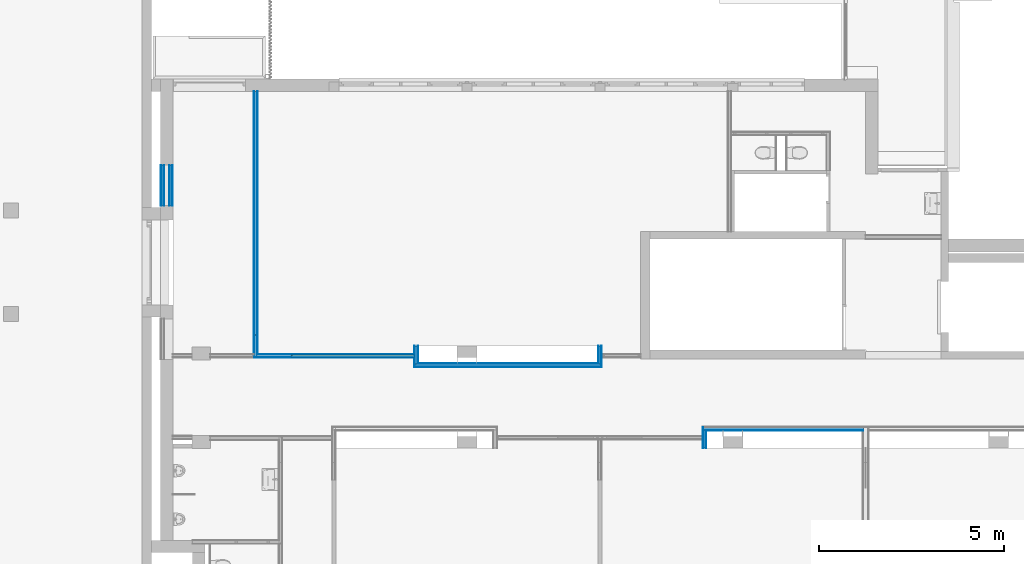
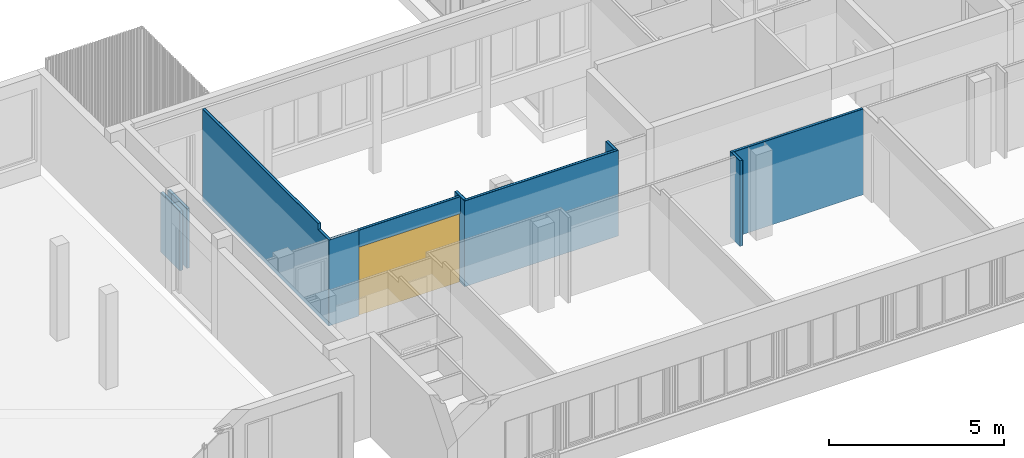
# One storey, part 58 of 99: 28 building element parts, 1 window, 1 opening, 10 elements without a shape of their own.
"""IFC2X3 building model written with IfcOpenShell, lengths in millimetres."""

from ifc_helpers import new_model, entity, si_unit, converted_unit, derived_unit, money_unit, direction, frame, origin_with_axes, place, context, subcontext, project, spatial, open_shell, faceted_brep, surface_model, material, type_object, element, fill, aggregate, save


model = new_model("IFC2X3")

# Units and contexts
model_context = context("Model", 3, precision=0.01, world=origin_with_axes(), true_north=direction((0.0, 1.0)))
body_context = subcontext(model_context, "Body", "Model", "MODEL_VIEW")
ifc_project = project(units=[si_unit("LENGTHUNIT", "METRE", prefix="MILLI"), si_unit("AREAUNIT", "SQUARE_METRE"), si_unit("VOLUMEUNIT", "CUBIC_METRE"), converted_unit("PLANEANGLEUNIT", "DEGREE", entity("IfcPlaneAngleMeasure", 0.0174532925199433), si_unit("PLANEANGLEUNIT", "RADIAN"), dimensions=[0, 0, 0, 0, 0, 0, 0]), money_unit("EUR"), converted_unit("TIMEUNIT", "Year", entity("IfcTimeMeasure", 31557600.0), si_unit("TIMEUNIT", "SECOND"), dimensions=[0, 0, 1, 0, 0, 0, 0]), si_unit("MASSUNIT", "GRAM", prefix="KILO"), si_unit("THERMODYNAMICTEMPERATUREUNIT", "DEGREE_CELSIUS"), si_unit("LUMINOUSINTENSITYUNIT", "LUMEN"), si_unit("ENERGYUNIT", "JOULE", prefix="MEGA"), derived_unit("THERMALCONDUCTANCEUNIT", [(si_unit("POWERUNIT", "WATT"), 1), (si_unit("LENGTHUNIT", "METRE"), -1), (si_unit("THERMODYNAMICTEMPERATUREUNIT", "KELVIN"), -1)]), derived_unit("SPECIFICHEATCAPACITYUNIT", [(si_unit("ENERGYUNIT", "JOULE"), 1), (si_unit("MASSUNIT", "GRAM", prefix="KILO"), -1), (si_unit("THERMODYNAMICTEMPERATUREUNIT", "KELVIN"), -1)]), derived_unit("MASSDENSITYUNIT", [(si_unit("MASSUNIT", "GRAM", prefix="KILO"), 1), (si_unit("VOLUMEUNIT", "CUBIC_METRE"), -1)])], contexts=[model_context])

# Site, building, storey
site_placement = place(None, origin_with_axes())
site = spatial("IfcSite", under=ifc_project, at=site_placement, Name="Site", CompositionType="ELEMENT")
building_placement = place(site_placement, origin_with_axes())
building = spatial("IfcBuilding", under=site, at=building_placement, Name="Naam gebouw", CompositionType="ELEMENT")
storey_placement = place(building_placement, frame((0.0, 0.0, 7650.0), z_axis=(0.0, 0.0, 1.0), x_axis=(1.0, 0.0, 0.0)))
storey = spatial("IfcBuildingStorey", under=building, at=storey_placement, Name="2e verdieping N", CompositionType="ELEMENT", Elevation=7650.0)

# Window
window_style = type_object("IfcWindowStyle", Name="R1 26", ConstructionType="NOTDEFINED", OperationType="SINGLE_PANEL", ParameterTakesPrecedence=False, Sizeable=False)
wall_10_placement = place(storey_placement, frame((2429.986500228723, 12825.85635739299, 0.0), z_axis=(0.0, 0.0, 1.0), x_axis=(1.0, 0.0, 0.0)))
opening_placement = place(wall_10_placement, frame((1672.256490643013, 0.0, 0.0), z_axis=(0.0, 0.0, 1.0), x_axis=(1.0, 0.0, 0.0)))
window_placement = place(opening_placement, frame((-1672.256490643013, 0.0, 0.0), z_axis=(0.0, 0.0, 1.0), x_axis=(1.0, 0.0, 0.0)))
window = element("IfcWindow", 1, at=window_placement, inside=storey, type_object=window_style, Name="_Merk-002", ObjectType="WINDOW", OverallHeight=2400.0, OverallWidth=3344.51, context=body_context, shape_type="SurfaceModel", body=[
    faceted_brep([(30.00000000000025, -9.999999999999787, 2369.999999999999), (30.00000000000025, 9.999999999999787, 2369.999999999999), (0.0, 9.999999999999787, 2369.999999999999), (0.0, -9.999999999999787, 2369.999999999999), (30.00000000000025, -9.999999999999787, 30.00000000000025), (30.00000000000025, 9.999999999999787, 30.00000000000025), (0.0, 9.999999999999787, 30.00000000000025), (0.0, -9.999999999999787, 30.00000000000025)], [[[0, 1, 2, 3]], [[4, 5, 1, 0]], [[1, 5, 6, 2]], [[3, 2, 6, 7]], [[0, 3, 7, 4]], [[7, 6, 5, 4]]]),
    faceted_brep([(3314.512981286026, -9.999999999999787, 30.00000000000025), (3314.512981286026, 9.999999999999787, 30.00000000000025), (3344.512981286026, 9.999999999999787, 30.00000000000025), (3344.512981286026, -9.999999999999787, 30.00000000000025), (3314.512981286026, -9.999999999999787, 2369.999999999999), (3314.512981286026, 9.999999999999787, 2369.999999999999), (3344.512981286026, 9.999999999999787, 2369.999999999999), (3344.512981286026, -9.999999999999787, 2369.999999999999)], [[[0, 1, 2, 3]], [[4, 5, 1, 0]], [[1, 5, 6, 2]], [[3, 2, 6, 7]], [[0, 3, 7, 4]], [[7, 6, 5, 4]]]),
    faceted_brep([(30.00000000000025, -9.999999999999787, 30.00000000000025), (30.00000000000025, 9.999999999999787, 30.00000000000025), (0.0, 9.999999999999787, 30.00000000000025), (0.0, -9.999999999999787, 30.00000000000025), (3314.512981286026, -9.999999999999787, 30.00000000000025), (3314.512981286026, 9.999999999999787, 30.00000000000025), (3344.512981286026, 9.999999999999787, 30.00000000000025), (3344.512981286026, 9.999999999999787, 0.0), (0.0, 9.999999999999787, 0.0), (0.0, -9.999999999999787, 0.0), (3344.512981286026, -9.999999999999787, 0.0), (3344.512981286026, -9.999999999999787, 30.00000000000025)], [[[0, 1, 2, 3]], [[4, 5, 1, 0]], [[1, 5, 6, 7, 8, 2]], [[3, 2, 8, 9]], [[0, 3, 9, 10, 11, 4]], [[11, 6, 5, 4]], [[10, 7, 6, 11]], [[9, 8, 7, 10]]]),
    faceted_brep([(3314.512981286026, -9.999999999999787, 2369.999999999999), (3314.512981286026, 9.999999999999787, 2369.999999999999), (3344.512981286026, 9.999999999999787, 2369.999999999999), (3344.512981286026, -9.999999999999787, 2369.999999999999), (30.00000000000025, -9.999999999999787, 2369.999999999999), (30.00000000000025, 9.999999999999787, 2369.999999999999), (0.0, 9.999999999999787, 2369.999999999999), (0.0, 9.999999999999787, 2400.0), (3344.512981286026, 9.999999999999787, 2400.0), (3344.512981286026, -9.999999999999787, 2400.0), (0.0, -9.999999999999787, 2400.0), (0.0, -9.999999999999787, 2369.999999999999)], [[[0, 1, 2, 3]], [[4, 5, 1, 0]], [[1, 5, 6, 7, 8, 2]], [[3, 2, 8, 9]], [[0, 3, 9, 10, 11, 4]], [[11, 6, 5, 4]], [[10, 7, 6, 11]], [[9, 8, 7, 10]]]),
    surface_model("IfcShellBasedSurfaceModel", [(30.00000000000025, -9.999999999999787, 30.00000000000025), (3314.512981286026, -9.999999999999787, 30.00000000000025), (3314.512981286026, -9.999999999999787, 2369.999999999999), (30.00000000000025, -9.999999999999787, 2369.999999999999)], [open_shell([[[0, 1, 2, 3]]])]),
    surface_model("IfcShellBasedSurfaceModel", [(30.00000000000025, 0.0, 30.00000000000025), (30.00000000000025, 0.0, 2369.999999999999), (3314.512981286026, 0.0, 2369.999999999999), (3314.512981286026, 0.0, 30.00000000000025)], [open_shell([[[0, 1, 2, 3]]])]),
])

# Wall, building element parts
wall_type = type_object("IfcWallType", Name="Metalstud iso 100 100", PredefinedType="NOTDEFINED")
wall_1_placement = place(storey_placement, frame((-1100.076105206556, 16900.57502437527, 309.9999999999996), z_axis=(0.0, 0.0, 1.0), x_axis=(0.0, 1.0, 0.0)))
wall_1 = element("IfcWall", 2, at=wall_1_placement, inside=storey, type_object=wall_type, Name="_Wand-x")
ifc_material_1 = material(Name="Gipsplaat")
building_element_part_1_placement = place(wall_1_placement, origin_with_axes())
building_element_part_1 = element("IfcBuildingElementPart", 3, at=building_element_part_1_placement, material=ifc_material_1, Name="Gipsplaat", context=body_context, shape_type="Brep", body=[
    faceted_brep([(1094.999999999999, 0.0, 0.0), (1094.999999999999, -12.49999999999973, 0.0), (0.0, -12.49999999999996, 0.0), (0.0, 0.0, 0.0), (1094.999999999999, 0.0, 2080.000000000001), (1094.999999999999, -12.49999999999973, 2080.000000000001), (0.0, -12.49999999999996, 2080.000000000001), (0.0, 0.0, 2080.000000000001)], [[[0, 1, 2, 3]], [[0, 4, 5, 1]], [[1, 5, 6, 2]], [[3, 2, 6, 7]], [[4, 0, 3, 7]], [[5, 4, 7, 6]]]),
])
building_element_part_2_placement = place(wall_1_placement, origin_with_axes())
building_element_part_2 = element("IfcBuildingElementPart", 4, at=building_element_part_2_placement, material=ifc_material_1, Name="Gipsplaat", context=body_context, shape_type="Brep", body=[
    faceted_brep([(1094.999999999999, -87.49999999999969, 0.0), (1094.999999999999, -99.99999999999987, 0.0), (0.0, -100.0000000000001, 0.0), (0.0, -87.49999999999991, 0.0), (1094.999999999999, -87.49999999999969, 2080.000000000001), (1094.999999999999, -99.99999999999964, 2080.000000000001), (0.0, -99.99999999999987, 2080.000000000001), (0.0, -87.49999999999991, 2080.000000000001)], [[[0, 1, 2, 3]], [[0, 4, 5, 1]], [[1, 5, 6, 2]], [[3, 2, 6, 7]], [[4, 0, 3, 7]], [[5, 4, 7, 6]]]),
])
ifc_material_2 = material(Name="Isolatie - Steenwol LSW")
building_element_part_3_placement = place(wall_1_placement, origin_with_axes())
building_element_part_3 = element("IfcBuildingElementPart", 5, at=building_element_part_3_placement, material=ifc_material_2, Name="Isolatie - Steenwol LSW", context=body_context, shape_type="Brep", body=[
    faceted_brep([(1094.999999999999, -12.49999999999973, 0.0), (1094.999999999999, -87.49999999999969, 0.0), (0.0, -87.49999999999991, 0.0), (0.0, -12.49999999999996, 0.0), (1094.999999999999, -12.49999999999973, 2080.000000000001), (1094.999999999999, -87.49999999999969, 2080.000000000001), (0.0, -87.49999999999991, 2080.000000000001), (0.0, -12.49999999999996, 2080.000000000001)], [[[0, 1, 2, 3]], [[0, 4, 5, 1]], [[1, 5, 6, 2]], [[3, 2, 6, 7]], [[4, 0, 3, 7]], [[5, 4, 7, 6]]]),
])
aggregate(wall_1, [building_element_part_1, building_element_part_2, building_element_part_3])

wall_2_placement = place(storey_placement, frame((-770.0761052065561, 16900.57502437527, 309.9999999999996), z_axis=(0.0, 0.0, 1.0), x_axis=(0.0, 1.0, 0.0)))
wall_2 = element("IfcWall", 6, at=wall_2_placement, inside=storey, type_object=wall_type, Name="_Wand-x")
building_element_part_4_placement = place(wall_2_placement, origin_with_axes())
building_element_part_4 = element("IfcBuildingElementPart", 7, at=building_element_part_4_placement, material=ifc_material_2, Name="Isolatie - Steenwol LSW", context=body_context, shape_type="Brep", body=[
    faceted_brep([(1094.999999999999, 12.5000000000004, 2080.000000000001), (1094.999999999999, 87.50000000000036, 2080.000000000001), (0.0, 87.50000000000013, 2080.000000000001), (0.0, 12.50000000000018, 2080.000000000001), (1094.999999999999, 12.50000000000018, 0.0), (1094.999999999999, 87.50000000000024, 0.0), (0.0, 87.50000000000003, 0.0), (0.0, 12.49999999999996, 0.0)], [[[0, 1, 2, 3]], [[0, 4, 5, 1]], [[1, 5, 6, 2]], [[3, 2, 6, 7]], [[4, 0, 3, 7]], [[5, 4, 7, 6]]]),
])
building_element_part_5_placement = place(wall_2_placement, origin_with_axes())
building_element_part_5 = element("IfcBuildingElementPart", 8, at=building_element_part_5_placement, material=ifc_material_1, Name="Gipsplaat", context=body_context, shape_type="Brep", body=[
    faceted_brep([(1094.999999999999, 87.50000000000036, 2080.000000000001), (1094.999999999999, 100.0000000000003, 2080.000000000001), (0.0, 100.0000000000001, 2080.000000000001), (0.0, 87.50000000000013, 2080.000000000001), (1094.999999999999, 87.50000000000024, 0.0), (1094.999999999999, 100.0000000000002, 0.0), (0.0, 99.99999999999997, 0.0), (0.0, 87.50000000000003, 0.0)], [[[0, 1, 2, 3]], [[0, 4, 5, 1]], [[1, 5, 6, 2]], [[3, 2, 6, 7]], [[4, 0, 3, 7]], [[5, 4, 7, 6]]]),
])
building_element_part_6_placement = place(wall_2_placement, origin_with_axes())
building_element_part_6 = element("IfcBuildingElementPart", 9, at=building_element_part_6_placement, material=ifc_material_1, Name="Gipsplaat", context=body_context, shape_type="Brep", body=[
    faceted_brep([(1094.999999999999, 0.0, 2080.000000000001), (1094.999999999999, 12.5000000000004, 2080.000000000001), (0.0, 12.50000000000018, 2080.000000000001), (0.0, 0.0, 2080.000000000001), (1094.999999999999, 0.0, 0.0), (1094.999999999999, 12.50000000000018, 0.0), (0.0, 12.49999999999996, 0.0), (0.0, 0.0, 0.0)], [[[0, 1, 2, 3]], [[0, 4, 5, 1]], [[1, 5, 6, 2]], [[3, 2, 6, 7]], [[4, 0, 3, 7]], [[5, 4, 7, 6]]]),
])
aggregate(wall_2, [building_element_part_4, building_element_part_5, building_element_part_6])

wall_3_placement = place(storey_placement, frame((1529.923894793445, 19995.82729346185, 0.0), z_axis=(0.0, 0.0, 1.0), x_axis=(5.168867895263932e-06, -0.9999999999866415, 0.0)))
wall_3 = element("IfcWall", 10, at=wall_3_placement, inside=storey, type_object=wall_type, Name="_Wand-x")
building_element_part_7_placement = place(wall_3_placement, origin_with_axes())
building_element_part_7 = element("IfcBuildingElementPart", 11, at=building_element_part_7_placement, material=ifc_material_1, Name="Gipsplaat", context=body_context, shape_type="Brep", body=[
    faceted_brep([(6599.914351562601, -99.99999999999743, 3199.999999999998), (6599.914416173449, -87.49999999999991, 3199.999999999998), (0.0, -87.49999999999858, 3199.999999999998), (0.0, -99.99999999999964, 3199.999999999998), (6599.914416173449, -87.50000000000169, 2989.999999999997), (6599.914351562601, -100.000000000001, 2989.999999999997), (7219.975588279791, -87.49999999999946, 2989.999999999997), (7219.975588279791, -87.49999999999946, 0.0), (0.0, -87.50000000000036, 0.0), (0.0, -100.0000000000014, 0.0), (7219.975588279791, -100.0000000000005, 0.0), (7219.975588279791, -100.0000000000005, 2989.999999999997)], [[[0, 1, 2, 3]], [[4, 1, 0, 5]], [[4, 6, 7, 8, 2, 1]], [[9, 3, 2, 8]], [[5, 0, 3, 9, 10, 11]], [[6, 4, 5, 11]], [[6, 11, 10, 7]], [[10, 9, 8, 7]]]),
])
building_element_part_8_placement = place(wall_3_placement, origin_with_axes())
building_element_part_8 = element("IfcBuildingElementPart", 12, at=building_element_part_8_placement, material=ifc_material_1, Name="Gipsplaat", context=body_context, shape_type="Brep", body=[
    faceted_brep([(6599.914803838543, -12.49999999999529, 3199.999999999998), (6599.91486844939, 0.0, 3199.999999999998), (0.0, 0.0, 3199.999999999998), (0.0, -12.49999999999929, 3199.999999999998), (6599.91486844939, 0.0, 2989.999999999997), (6599.914803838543, -12.49999999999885, 2989.999999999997), (7132.475588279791, 0.0, 2989.999999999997), (7132.475588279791, 0.0, 0.0), (0.0, 0.0, 0.0), (0.0, -12.49999999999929, 0.0), (7132.475588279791, -12.49999999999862, 0.0), (7132.475588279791, -12.49999999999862, 2989.999999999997)], [[[0, 1, 2, 3]], [[4, 1, 0, 5]], [[4, 6, 7, 8, 2, 1]], [[9, 3, 2, 8]], [[5, 0, 3, 9, 10, 11]], [[6, 4, 5, 11]], [[6, 11, 10, 7]], [[10, 9, 8, 7]]]),
])
building_element_part_9_placement = place(wall_3_placement, origin_with_axes())
building_element_part_9 = element("IfcBuildingElementPart", 13, at=building_element_part_9_placement, material=ifc_material_2, Name="Isolatie - Steenwol LSW", context=body_context, shape_type="Brep", body=[
    faceted_brep([(6599.914416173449, -87.49999999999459, 3199.999999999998), (6599.914803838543, -12.49999999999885, 3199.999999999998), (0.0, -12.49999999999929, 3199.999999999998), (0.0, -87.49999999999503, 3199.999999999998), (6599.914803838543, -12.49999999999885, 2989.999999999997), (6599.914416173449, -87.49999999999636, 2989.999999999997), (7207.475588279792, -12.49999999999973, 2989.999999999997), (7207.475588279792, -12.49999999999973, 0.0), (0.0, -12.49999999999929, 0.0), (0.0, -87.50000000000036, 0.0), (7207.475588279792, -87.5000000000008, 0.0), (7207.475588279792, -87.49999999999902, 2989.999999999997)], [[[0, 1, 2, 3]], [[4, 1, 0, 5]], [[4, 6, 7, 8, 2, 1]], [[9, 3, 2, 8]], [[5, 0, 3, 9, 10, 11]], [[6, 4, 5, 11]], [[6, 11, 10, 7]], [[10, 9, 8, 7]]]),
])
aggregate(wall_3, [building_element_part_7, building_element_part_8, building_element_part_9])

wall_4_placement = place(storey_placement, frame((18000.0, 10805.91242510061, 0.0), z_axis=(0.0, 0.0, 1.0), x_axis=(-1.0, 0.0, 0.0)))
wall_4 = element("IfcWall", 14, at=wall_4_placement, inside=storey, type_object=wall_type, Name="_Wand-x")
building_element_part_10_placement = place(wall_4_placement, origin_with_axes())
building_element_part_10 = element("IfcBuildingElementPart", 15, at=building_element_part_10_placement, material=ifc_material_1, Name="Gipsplaat", context=body_context, shape_type="Brep", body=[
    faceted_brep([(4327.500000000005, -12.49999999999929, 2989.999999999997), (62.5, -12.49999999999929, 2989.999999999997), (62.5, -12.49999999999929, 0.0), (4327.500000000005, -12.50000000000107, 0.0), (62.5, 0.0, 2989.999999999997), (4327.500000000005, 0.0, 2989.999999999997), (62.5, 0.0, 0.0), (4327.500000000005, 0.0, 0.0)], [[[0, 1, 2, 3]], [[4, 1, 0, 5]], [[1, 4, 6, 2]], [[3, 2, 6, 7]], [[5, 0, 3, 7]], [[4, 5, 7, 6]]]),
])
building_element_part_11_placement = place(wall_4_placement, origin_with_axes())
building_element_part_11 = element("IfcBuildingElementPart", 16, at=building_element_part_11_placement, material=ifc_material_2, Name="Isolatie - Steenwol LSW", context=body_context, shape_type="Brep", body=[
    faceted_brep([(4402.500000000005, -87.50000000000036, 2989.999999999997), (62.5, -87.50000000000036, 2989.999999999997), (62.5, -87.50000000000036, 0.0), (4402.500000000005, -87.50000000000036, 0.0), (62.5, -12.49999999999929, 2989.999999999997), (4402.500000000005, -12.49999999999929, 2989.999999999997), (62.5, -12.50000000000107, 0.0), (4402.500000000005, -12.50000000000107, 0.0)], [[[0, 1, 2, 3]], [[4, 1, 0, 5]], [[1, 4, 6, 2]], [[3, 2, 6, 7]], [[5, 0, 3, 7]], [[4, 5, 7, 6]]]),
])
aggregate(wall_4, [building_element_part_10, building_element_part_11])

wall_5_placement = place(storey_placement, frame((13684.99999999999, 10330.91242510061, 0.0), z_axis=(0.0, 0.0, 1.0), x_axis=(0.0, 1.0, 0.0)))
wall_5 = element("IfcWall", 17, at=wall_5_placement, inside=storey, type_object=wall_type, Name="_Wand-x")
building_element_part_12_placement = place(wall_5_placement, origin_with_axes())
building_element_part_12 = element("IfcBuildingElementPart", 18, at=building_element_part_12_placement, material=ifc_material_1, Name="Gipsplaat", context=body_context, shape_type="Brep", body=[
    faceted_brep([(562.4999999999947, 99.99999999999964, 2989.999999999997), (562.4999999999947, 87.50000000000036, 2989.999999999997), (562.4999999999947, 87.50000000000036, 0.0), (562.4999999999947, 99.99999999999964, 0.0), (0.0, 87.50000000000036, 2989.999999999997), (0.0, 99.99999999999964, 2989.999999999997), (0.0, 87.50000000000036, 0.0), (0.0, 99.99999999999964, 0.0)], [[[0, 1, 2, 3]], [[4, 1, 0, 5]], [[1, 4, 6, 2]], [[3, 2, 6, 7]], [[5, 0, 3, 7]], [[4, 5, 7, 6]]]),
])
building_element_part_13_placement = place(wall_5_placement, origin_with_axes())
building_element_part_13 = element("IfcBuildingElementPart", 19, at=building_element_part_13_placement, material=ifc_material_2, Name="Isolatie - Steenwol LSW", context=body_context, shape_type="Brep", body=[
    faceted_brep([(487.4999999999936, 87.50000000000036, 2989.999999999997), (487.4999999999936, 12.50000000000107, 2989.999999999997), (487.4999999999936, 12.49999999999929, 0.0), (487.4999999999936, 87.50000000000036, 0.0), (0.0, 12.50000000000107, 2989.999999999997), (0.0, 87.50000000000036, 2989.999999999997), (0.0, 12.49999999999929, 0.0), (0.0, 87.50000000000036, 0.0)], [[[0, 1, 2, 3]], [[4, 1, 0, 5]], [[1, 4, 6, 2]], [[3, 2, 6, 7]], [[5, 0, 3, 7]], [[4, 5, 7, 6]]]),
])
building_element_part_14_placement = place(wall_5_placement, origin_with_axes())
building_element_part_14 = element("IfcBuildingElementPart", 20, at=building_element_part_14_placement, material=ifc_material_1, Name="Gipsplaat", context=body_context, shape_type="Brep", body=[
    faceted_brep([(474.9999999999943, 12.50000000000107, 2989.999999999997), (474.9999999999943, 0.0, 2989.999999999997), (474.9999999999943, 0.0, 0.0), (474.9999999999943, 12.49999999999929, 0.0), (0.0, 0.0, 2989.999999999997), (0.0, 12.50000000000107, 2989.999999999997), (0.0, 0.0, 0.0), (0.0, 12.49999999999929, 0.0)], [[[0, 1, 2, 3]], [[4, 1, 0, 5]], [[1, 4, 6, 2]], [[3, 2, 6, 7]], [[5, 0, 3, 7]], [[4, 5, 7, 6]]]),
])
aggregate(wall_5, [building_element_part_12, building_element_part_13, building_element_part_14])

wall_6_placement = place(storey_placement, frame((10750.0, 13100.85635739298, 0.0), z_axis=(0.0, 0.0, 1.0), x_axis=(0.0, -1.0, 0.0)))
wall_6 = element("IfcWall", 21, at=wall_6_placement, inside=storey, type_object=wall_type, Name="_Wand-x")
building_element_part_15_placement = place(wall_6_placement, origin_with_axes())
building_element_part_15 = element("IfcBuildingElementPart", 22, at=building_element_part_15_placement, material=ifc_material_1, Name="Gipsplaat", context=body_context, shape_type="Brep", body=[
    faceted_brep([(0.0, 87.49999999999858, 2989.999999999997), (0.0, 100.0000000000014, 2989.999999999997), (0.0, 100.0000000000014, 0.0), (0.0, 87.49999999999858, 0.0), (562.4999999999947, 100.0000000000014, 2989.999999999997), (562.4999999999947, 87.49999999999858, 2989.999999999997), (562.4999999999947, 100.0000000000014, 0.0), (562.4999999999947, 87.49999999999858, 0.0)], [[[0, 1, 2, 3]], [[4, 1, 0, 5]], [[1, 4, 6, 2]], [[6, 7, 3, 2]], [[5, 0, 3, 7]], [[4, 5, 7, 6]]]),
])
building_element_part_16_placement = place(wall_6_placement, origin_with_axes())
building_element_part_16 = element("IfcBuildingElementPart", 23, at=building_element_part_16_placement, material=ifc_material_2, Name="Isolatie - Steenwol LSW", context=body_context, shape_type="Brep", body=[
    faceted_brep([(0.0, 12.50000000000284, 2989.999999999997), (0.0, 87.49999999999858, 2989.999999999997), (0.0, 87.49999999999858, 0.0), (0.0, 12.49999999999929, 0.0), (487.4999999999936, 87.49999999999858, 2989.999999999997), (487.4999999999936, 12.49999999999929, 2989.999999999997), (487.4999999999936, 87.49999999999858, 0.0), (487.4999999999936, 12.49999999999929, 0.0)], [[[0, 1, 2, 3]], [[4, 1, 0, 5]], [[1, 4, 6, 2]], [[6, 7, 3, 2]], [[5, 0, 3, 7]], [[4, 5, 7, 6]]]),
])
building_element_part_17_placement = place(wall_6_placement, origin_with_axes())
building_element_part_17 = element("IfcBuildingElementPart", 24, at=building_element_part_17_placement, material=ifc_material_1, Name="Gipsplaat", context=body_context, shape_type="Brep", body=[
    faceted_brep([(0.0, 0.0, 2989.999999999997), (0.0, 12.50000000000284, 2989.999999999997), (0.0, 12.49999999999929, 0.0), (0.0, 0.0, 0.0), (474.9999999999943, 12.49999999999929, 2989.999999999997), (474.9999999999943, 0.0, 2989.999999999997), (474.9999999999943, 12.49999999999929, 0.0), (474.9999999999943, 0.0, 0.0)], [[[0, 1, 2, 3]], [[4, 1, 0, 5]], [[1, 4, 6, 2]], [[6, 7, 3, 2]], [[5, 0, 3, 7]], [[4, 5, 7, 6]]]),
])
aggregate(wall_6, [building_element_part_15, building_element_part_16, building_element_part_17])

wall_7_placement = place(storey_placement, frame((1529.960858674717, 12875.851705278, 0.0), z_axis=(0.0, 0.0, 1.0), x_axis=(0.9999999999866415, 5.168867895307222e-06, 0.0)))
wall_7 = element("IfcWall", 25, at=wall_7_placement, inside=storey, type_object=wall_type, Name="_Wand-x")
building_element_part_18_placement = place(wall_7_placement, origin_with_axes())
building_element_part_18 = element("IfcBuildingElementPart", 26, at=building_element_part_18_placement, material=ifc_material_1, Name="Gipsplaat", context=body_context, shape_type="Brep", body=[
    faceted_brep([(-0.0001616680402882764, 8.36664071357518e-10, 2989.999999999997), (900.0256415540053, -0.004652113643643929, 2989.999999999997), (900.0256415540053, -0.004652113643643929, 0.0), (-0.0001616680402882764, 8.36664071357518e-10, 0.0), (900.0255769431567, -12.50465211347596, 2989.999999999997), (-0.0001616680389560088, -12.4999999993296, 2989.999999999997), (900.0255769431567, -12.50465211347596, 0.0), (-0.0001616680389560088, -12.4999999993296, 0.0)], [[[0, 1, 2, 3]], [[4, 1, 0, 5]], [[1, 4, 6, 2]], [[3, 2, 6, 7]], [[5, 0, 3, 7]], [[4, 5, 7, 6]]]),
])
building_element_part_19_placement = place(wall_7_placement, origin_with_axes())
building_element_part_19 = element("IfcBuildingElementPart", 27, at=building_element_part_19_placement, material=ifc_material_1, Name="Gipsplaat", context=body_context, shape_type="Brep", body=[
    faceted_brep([(-87.50016166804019, -87.49954772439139, 2989.999999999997), (900.0251892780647, -87.50465211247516, 2989.999999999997), (900.0251892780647, -87.50465211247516, 0.0), (-87.50016166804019, -87.49954772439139, 0.0), (900.025124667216, -100.0046521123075, 2989.999999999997), (-87.50016166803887, -99.99954772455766, 2989.999999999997), (900.025124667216, -100.0046521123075, 0.0), (-87.50016166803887, -99.99954772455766, 0.0)], [[[0, 1, 2, 3]], [[4, 1, 0, 5]], [[1, 4, 6, 2]], [[3, 2, 6, 7]], [[5, 0, 3, 7]], [[4, 5, 7, 6]]]),
])
aggregate(wall_7, [building_element_part_18, building_element_part_19])

wall_8_placement = place(storey_placement, frame((5874.499481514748, 13100.85635739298, 0.0), z_axis=(0.0, 0.0, 1.0), x_axis=(0.0, -1.0, 0.0)))
wall_8 = element("IfcWall", 28, at=wall_8_placement, inside=storey, type_object=wall_type, Name="_Wand-x")
building_element_part_20_placement = place(wall_8_placement, origin_with_axes())
building_element_part_20 = element("IfcBuildingElementPart", 29, at=building_element_part_20_placement, material=ifc_material_1, Name="Gipsplaat", context=body_context, shape_type="Brep", body=[
    faceted_brep([(3.255351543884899e-08, -12.50000000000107, 2049.999999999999), (6.645883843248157e-08, 0.0, 2049.999999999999), (0.0, 0.0, 0.0), (0.0, -12.50000000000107, 0.0), (430.000000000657, 0.0, 2049.999999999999), (430.000000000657, -12.50000000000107, 2049.999999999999), (450.0000000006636, 0.0, 2049.999999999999), (450.0000000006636, 0.0, 2069.999999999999), (6.645883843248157e-08, 0.0, 2069.999999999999), (0.0, 0.0, 2989.999999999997), (474.9999999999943, 0.0, 2989.999999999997), (474.9999999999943, 0.0, 0.0), (430.000000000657, 0.0, 49.99999999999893), (450.0000000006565, 0.0, 49.99999999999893), (474.9999999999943, -12.50000000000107, 0.0), (450.0000000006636, -12.50000000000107, 2069.999999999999), (450.0000000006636, -12.50000000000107, 2049.999999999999), (450.0000000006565, -12.50000000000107, 49.99999999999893), (430.000000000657, -12.50000000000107, 49.99999999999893), (474.9999999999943, -12.50000000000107, 2989.999999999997), (0.0, -12.50000000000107, 2989.999999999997), (3.255351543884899e-08, -12.50000000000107, 2069.999999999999)], [[[0, 1, 2, 3]], [[4, 1, 0, 5]], [[6, 7, 8, 9, 10, 11, 2, 1, 4, 12, 13]], [[2, 11, 14, 3]], [[15, 16, 17, 18, 5, 0, 3, 14, 19, 20, 21]], [[4, 5, 18, 12]], [[7, 6, 16, 15]], [[21, 8, 7, 15]], [[8, 21, 20, 9]], [[10, 9, 20, 19]], [[10, 19, 14, 11]], [[17, 13, 12, 18]], [[16, 6, 13, 17]]]),
])
building_element_part_21_placement = place(wall_8_placement, origin_with_axes())
building_element_part_21 = element("IfcBuildingElementPart", 30, at=building_element_part_21_placement, material=ifc_material_2, Name="Isolatie - Steenwol LSW", context=body_context, shape_type="Brep", body=[
    faceted_brep([(450.0000000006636, -12.50000000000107, 2049.999999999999), (450.0000000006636, -12.50000000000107, 2069.999999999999), (3.255351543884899e-08, -12.50000000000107, 2069.999999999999), (0.0, -12.50000000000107, 2989.999999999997), (487.4999999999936, -12.50000000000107, 2989.999999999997), (487.4999999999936, -12.50000000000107, 0.0), (0.0, -12.50000000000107, 0.0), (3.255351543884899e-08, -12.50000000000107, 2049.999999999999), (430.000000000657, -12.50000000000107, 2049.999999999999), (430.000000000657, -12.50000000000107, 49.99999999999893), (450.0000000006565, -12.50000000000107, 49.99999999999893), (450.0000000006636, -24.49948151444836, 2049.999999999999), (450.0000000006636, -24.49948151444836, 2069.999999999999), (0.0, -24.49948151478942, 2069.999999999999), (0.0, -24.49948151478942, 2049.999999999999), (0.0, -87.50000000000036, 0.0), (0.0, -87.50000000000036, 2989.999999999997), (487.4999999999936, -87.50000000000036, 2989.999999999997), (487.4999999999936, -87.50000000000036, 0.0), (430.000000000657, -24.49948151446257, 2049.999999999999), (430.000000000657, -24.49948151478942, 49.99999999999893), (450.0000000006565, -24.49948151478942, 49.99999999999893)], [[[0, 1, 2, 3, 4, 5, 6, 7, 8, 9, 10]], [[1, 0, 11, 12]], [[13, 2, 1, 12]], [[14, 7, 6, 15, 16, 3, 2, 13]], [[4, 3, 16, 17]], [[4, 17, 18, 5]], [[6, 5, 18, 15]], [[8, 7, 14, 19]], [[8, 19, 20, 9]], [[21, 10, 9, 20]], [[11, 0, 10, 21]], [[14, 13, 12, 11, 19]], [[17, 16, 15, 18]], [[19, 11, 21, 20]]]),
])
building_element_part_22_placement = place(wall_8_placement, origin_with_axes())
building_element_part_22 = element("IfcBuildingElementPart", 31, at=building_element_part_22_placement, material=ifc_material_1, Name="Gipsplaat", context=body_context, shape_type="Brep", body=[
    faceted_brep([(0.0, -99.99999999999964, 2989.999999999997), (0.0, -87.50000000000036, 2989.999999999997), (0.0, -87.50000000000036, 0.0), (0.0, -99.99999999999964, 0.0), (562.4999999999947, -87.50000000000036, 2989.999999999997), (562.4999999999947, -99.99999999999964, 2989.999999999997), (562.4999999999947, -87.50000000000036, 0.0), (562.4999999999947, -99.99999999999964, 0.0)], [[[0, 1, 2, 3]], [[4, 1, 0, 5]], [[1, 4, 6, 2]], [[6, 7, 3, 2]], [[5, 0, 3, 7]], [[4, 5, 7, 6]]]),
])
aggregate(wall_8, [building_element_part_20, building_element_part_21, building_element_part_22])

wall_9_placement = place(storey_placement, frame((10750.0, 12625.85635739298, 0.0), z_axis=(0.0, 0.0, 1.0), x_axis=(-1.0, 0.0, 0.0)))
wall_9 = element("IfcWall", 32, at=wall_9_placement, inside=storey, type_object=wall_type, Name="_Wand-x")
building_element_part_23_placement = place(wall_9_placement, origin_with_axes())
building_element_part_23 = element("IfcBuildingElementPart", 33, at=building_element_part_23_placement, material=ifc_material_1, Name="Gipsplaat", context=body_context, shape_type="Brep", body=[
    faceted_brep([(4888.000518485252, 0.0, 2989.999999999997), (-12.49999999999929, 0.0, 2989.999999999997), (-12.49999999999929, 0.0, 0.0), (4888.000518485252, 0.0, 0.0), (-12.49999999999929, 12.50000000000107, 2989.999999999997), (4888.000518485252, 12.50000000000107, 2989.999999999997), (-12.49999999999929, 12.49999999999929, 0.0), (4888.000518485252, 12.50000000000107, 0.0)], [[[0, 1, 2, 3]], [[4, 1, 0, 5]], [[1, 4, 6, 2]], [[7, 3, 2, 6]], [[5, 0, 3, 7]], [[4, 5, 7, 6]]]),
])
building_element_part_24_placement = place(wall_9_placement, origin_with_axes())
building_element_part_24 = element("IfcBuildingElementPart", 34, at=building_element_part_24_placement, material=ifc_material_2, Name="Isolatie - Steenwol LSW", context=body_context, shape_type="Brep", body=[
    faceted_brep([(4963.000518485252, 12.50000000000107, 2989.999999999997), (-87.49999999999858, 12.50000000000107, 2989.999999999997), (-87.49999999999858, 12.49999999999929, 0.0), (4963.000518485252, 12.50000000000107, 0.0), (-87.49999999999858, 87.50000000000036, 2989.999999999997), (4963.000518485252, 87.50000000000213, 2989.999999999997), (-87.49999999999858, 87.50000000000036, 0.0), (4963.000518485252, 87.50000000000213, 0.0)], [[[0, 1, 2, 3]], [[4, 1, 0, 5]], [[1, 4, 6, 2]], [[7, 3, 2, 6]], [[5, 0, 3, 7]], [[4, 5, 7, 6]]]),
])
building_element_part_25_placement = place(wall_9_placement, origin_with_axes())
building_element_part_25 = element("IfcBuildingElementPart", 35, at=building_element_part_25_placement, material=ifc_material_1, Name="Gipsplaat", context=body_context, shape_type="Brep", body=[
    faceted_brep([(4975.500518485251, 87.50000000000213, 2989.999999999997), (-100.0000000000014, 87.50000000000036, 2989.999999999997), (-100.0000000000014, 87.50000000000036, 0.0), (4975.500518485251, 87.50000000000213, 0.0), (-100.0000000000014, 99.99999999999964, 2989.999999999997), (4975.500518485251, 100.0000000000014, 2989.999999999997), (-100.0000000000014, 99.99999999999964, 0.0), (4975.500518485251, 100.0000000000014, 0.0)], [[[0, 1, 2, 3]], [[4, 1, 0, 5]], [[1, 4, 6, 2]], [[7, 3, 2, 6]], [[5, 0, 3, 7]], [[4, 5, 7, 6]]]),
])
aggregate(wall_9, [building_element_part_23, building_element_part_24, building_element_part_25])

# Wall, opening
wall_10 = element("IfcWall", 36, at=wall_10_placement, inside=storey, type_object=wall_type, Name="_Wand-x")
opening = element("IfcOpeningElement", 37, at=opening_placement, cuts=wall_10, Name="_Merk-002", context=body_context, shape_type="Brep", body=[
    faceted_brep([(1672.256490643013, -10.00000000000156, 0.0), (1672.256490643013, -9.999999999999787, 2400.0), (1672.256490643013, -51.00000000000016, 2400.0), (1672.256490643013, -51.00000000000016, 0.0), (1672.256490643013, 51.00000000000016, 0.0), (1672.256490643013, 51.00000000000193, 2400.0), (-1672.256490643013, -9.999999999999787, 2400.0), (-1672.256490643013, -51.00000000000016, 2400.0), (-1672.256490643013, 51.00000000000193, 2400.0), (-1672.256490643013, -51.00000000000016, 0.0), (-1672.256490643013, -10.00000000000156, 0.0), (-1672.256490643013, 51.00000000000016, 0.0)], [[[0, 1, 2, 3]], [[1, 0, 4, 5]], [[6, 7, 2, 1, 5, 8]], [[7, 9, 3, 2]], [[0, 3, 9, 10, 11, 4]], [[5, 4, 11, 8]], [[6, 10, 9, 7]], [[10, 6, 8, 11]]]),
])

fill(opening, window)

# Building element part
building_element_part_26_placement = place(wall_10_placement, origin_with_axes())
building_element_part_26 = element("IfcBuildingElementPart", 38, at=building_element_part_26_placement, material=ifc_material_2, Name="Isolatie - Steenwol LSW", context=body_context, shape_type="Brep", body=[
    faceted_brep([(3344.512981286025, -9.999999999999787, 2400.0), (3344.512981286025, 37.49999999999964, 2400.0), (3344.512981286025, 37.49999999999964, 2989.999999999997), (3344.512981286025, -37.49999999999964, 2989.999999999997), (3344.512981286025, -37.49999999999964, 2400.0), (0.0, -9.999999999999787, 2400.0), (0.0, 37.49999999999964, 2400.0), (0.0, -37.49999999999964, 2400.0), (0.0, 37.49999999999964, 2989.999999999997), (0.0, -37.49999999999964, 2989.999999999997)], [[[0, 1, 2, 3, 4]], [[5, 6, 1, 0, 4, 7]], [[1, 6, 8, 2]], [[8, 9, 3, 2]], [[4, 3, 9, 7]], [[6, 5, 7, 9, 8]]]),
])

building_element_part_27_placement = place(wall_10_placement, origin_with_axes())
building_element_part_27 = element("IfcBuildingElementPart", 39, at=building_element_part_27_placement, material=ifc_material_1, Name="Gipsplaat", context=body_context, shape_type="Brep", body=[
    faceted_brep([(3344.512981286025, -49.99999999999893, 2400.0), (3344.512981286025, -37.49999999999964, 2400.0), (3344.512981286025, -37.49999999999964, 2989.999999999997), (3344.512981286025, -49.99999999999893, 2989.999999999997), (0.0, -37.49999999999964, 2400.0), (0.0, -49.99999999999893, 2400.0), (0.0, -37.49999999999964, 2989.999999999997), (0.0, -49.99999999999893, 2989.999999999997)], [[[0, 1, 2, 3]], [[4, 1, 0, 5]], [[1, 4, 6, 2]], [[2, 6, 7, 3]], [[5, 0, 3, 7]], [[4, 5, 7, 6]]]),
])

building_element_part_28_placement = place(wall_10_placement, origin_with_axes())
building_element_part_28 = element("IfcBuildingElementPart", 40, at=building_element_part_28_placement, material=ifc_material_1, Name="Gipsplaat", context=body_context, shape_type="Brep", body=[
    faceted_brep([(3344.512981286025, 37.49999999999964, 2400.0), (3344.512981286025, 50.00000000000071, 2400.0), (3344.512981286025, 50.00000000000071, 2989.999999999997), (3344.512981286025, 37.49999999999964, 2989.999999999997), (0.0, 50.00000000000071, 2400.0), (0.0, 37.49999999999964, 2400.0), (0.0, 50.00000000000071, 2989.999999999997), (0.0, 37.49999999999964, 2989.999999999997)], [[[0, 1, 2, 3]], [[4, 1, 0, 5]], [[1, 4, 6, 2]], [[2, 6, 7, 3]], [[5, 0, 3, 7]], [[4, 5, 7, 6]]]),
])

aggregate(wall_10, [building_element_part_26, building_element_part_27, building_element_part_28])

save(model, "model.ifc")
